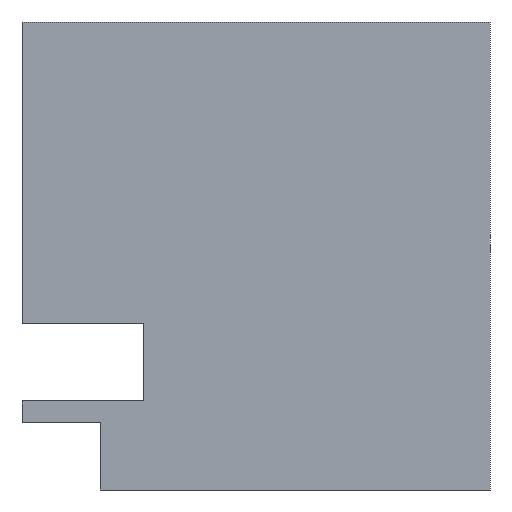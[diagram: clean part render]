
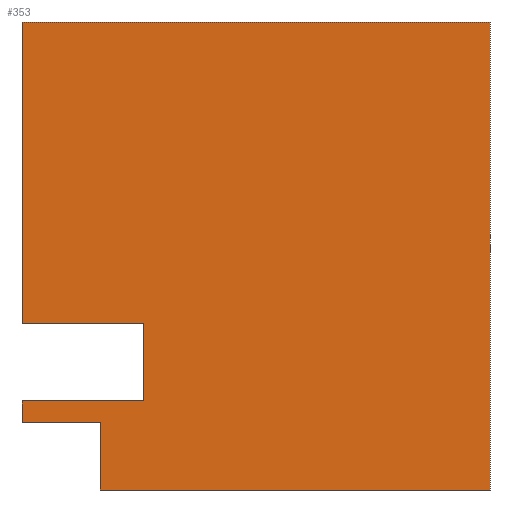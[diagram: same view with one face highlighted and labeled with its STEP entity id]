
A CAD part, front view. The second image highlights one B-rep face of the part: STEP entity #353.
In plain terms, the highlighted planar face has unit normal (0, -1, 0).
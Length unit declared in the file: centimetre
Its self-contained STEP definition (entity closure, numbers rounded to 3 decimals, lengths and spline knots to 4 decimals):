
#1 = CARTESIAN_POINT ( 'NONE',  ( 0., 0., 1000. ) ) ;
#27 = LINE ( 'NONE', #147, #177 ) ;
#34 = CARTESIAN_POINT ( 'NONE',  ( 0., 0., 1000. ) ) ;
#36 = CARTESIAN_POINT ( 'NONE',  ( 0., 0., 356.3353 ) ) ;
#38 = LINE ( 'NONE', #34, #352 ) ;
#46 = PLANE ( 'NONE',  #463 ) ;
#47 = VERTEX_POINT ( 'NONE', #515 ) ;
#55 = DIRECTION ( 'NONE',  ( 1., 0., 0. ) ) ;
#63 = ORIENTED_EDGE ( 'NONE', *, *, #104, .F. ) ;
#70 = EDGE_CURVE ( 'NONE', #47, #554, #331, .T. ) ;
#72 = VECTOR ( 'NONE', #210, 100. ) ;
#97 = CARTESIAN_POINT ( 'NONE',  ( 0., 0., 190.1801 ) ) ;
#104 = EDGE_CURVE ( 'NONE', #674, #160, #38, .T. ) ;
#110 = CARTESIAN_POINT ( 'NONE',  ( 167.4803, 0., 145.2426 ) ) ;
#133 = ORIENTED_EDGE ( 'NONE', *, *, #347, .F. ) ;
#138 = EDGE_CURVE ( 'NONE', #764, #198, #604, .T. ) ;
#147 = CARTESIAN_POINT ( 'NONE',  ( 167.4803, 0., 145.2426 ) ) ;
#155 = VECTOR ( 'NONE', #544, 100. ) ;
#160 = VERTEX_POINT ( 'NONE', #708 ) ;
#177 = VECTOR ( 'NONE', #193, 100. ) ;
#189 = CARTESIAN_POINT ( 'NONE',  ( 167.4803, 0., 145.2426 ) ) ;
#192 = ORIENTED_EDGE ( 'NONE', *, *, #220, .T. ) ;
#193 = DIRECTION ( 'NONE',  ( 0., 0., -1. ) ) ;
#196 = CARTESIAN_POINT ( 'NONE',  ( 0., 0., 356.3353 ) ) ;
#198 = VERTEX_POINT ( 'NONE', #540 ) ;
#203 = EDGE_LOOP ( 'NONE', ( #298, #318, #735, #133, #677, #192, #467, #63, #561, #490 ) ) ;
#210 = DIRECTION ( 'NONE',  ( 0., 0., -1. ) ) ;
#214 = EDGE_CURVE ( 'NONE', #674, #710, #769, .T. ) ;
#220 = EDGE_CURVE ( 'NONE', #529, #236, #301, .T. ) ;
#221 = DIRECTION ( 'NONE',  ( -1., 0., 0. ) ) ;
#236 = VERTEX_POINT ( 'NONE', #243 ) ;
#237 = CARTESIAN_POINT ( 'NONE',  ( 259.8234, 0., 190.1801 ) ) ;
#243 = CARTESIAN_POINT ( 'NONE',  ( 1000., 0., 0. ) ) ;
#268 = LINE ( 'NONE', #196, #655 ) ;
#276 = DIRECTION ( 'NONE',  ( 1., 0., 0. ) ) ;
#283 = CARTESIAN_POINT ( 'NONE',  ( 259.8234, 0., 356.3353 ) ) ;
#298 = ORIENTED_EDGE ( 'NONE', *, *, #138, .T. ) ;
#301 = LINE ( 'NONE', #600, #536 ) ;
#318 = ORIENTED_EDGE ( 'NONE', *, *, #709, .T. ) ;
#320 = CARTESIAN_POINT ( 'NONE',  ( 167.4803, 0., 0. ) ) ;
#331 = LINE ( 'NONE', #457, #72 ) ;
#346 = DIRECTION ( 'NONE',  ( -1., 0., 0. ) ) ;
#347 = EDGE_CURVE ( 'NONE', #387, #554, #756, .T. ) ;
#352 = VECTOR ( 'NONE', #276, 100. ) ;
#353 = ADVANCED_FACE ( 'NONE', ( #591 ), #46, .F. ) ;
#387 = VERTEX_POINT ( 'NONE', #189 ) ;
#388 = DIRECTION ( 'NONE',  ( 0., 0., -1. ) ) ;
#397 = LINE ( 'NONE', #607, #687 ) ;
#402 = LINE ( 'NONE', #97, #642 ) ;
#423 = EDGE_CURVE ( 'NONE', #160, #236, #397, .T. ) ;
#424 = VECTOR ( 'NONE', #346, 100. ) ;
#456 = CARTESIAN_POINT ( 'NONE',  ( 0., 0., 145.2426 ) ) ;
#457 = CARTESIAN_POINT ( 'NONE',  ( 0., 0., 1000. ) ) ;
#463 = AXIS2_PLACEMENT_3D ( 'NONE', #537, #772, #711 ) ;
#466 = CARTESIAN_POINT ( 'NONE',  ( 0., 0., 1000. ) ) ;
#467 = ORIENTED_EDGE ( 'NONE', *, *, #423, .F. ) ;
#490 = ORIENTED_EDGE ( 'NONE', *, *, #597, .T. ) ;
#509 = VECTOR ( 'NONE', #542, 100. ) ;
#515 = CARTESIAN_POINT ( 'NONE',  ( 0., 0., 190.1801 ) ) ;
#529 = VERTEX_POINT ( 'NONE', #320 ) ;
#536 = VECTOR ( 'NONE', #55, 100. ) ;
#537 = CARTESIAN_POINT ( 'NONE',  ( 0., 0., 1000. ) ) ;
#540 = CARTESIAN_POINT ( 'NONE',  ( 259.8234, 0., 190.1801 ) ) ;
#542 = DIRECTION ( 'NONE',  ( 0., 0., -1. ) ) ;
#544 = DIRECTION ( 'NONE',  ( 0., 0., -1. ) ) ;
#546 = EDGE_CURVE ( 'NONE', #387, #529, #27, .T. ) ;
#554 = VERTEX_POINT ( 'NONE', #456 ) ;
#561 = ORIENTED_EDGE ( 'NONE', *, *, #214, .T. ) ;
#591 = FACE_OUTER_BOUND ( 'NONE', #203, .T. ) ;
#597 = EDGE_CURVE ( 'NONE', #710, #764, #268, .T. ) ;
#600 = CARTESIAN_POINT ( 'NONE',  ( 0., 0., 0. ) ) ;
#604 = LINE ( 'NONE', #237, #509 ) ;
#607 = CARTESIAN_POINT ( 'NONE',  ( 1000., 0., 1000. ) ) ;
#642 = VECTOR ( 'NONE', #221, 100. ) ;
#655 = VECTOR ( 'NONE', #676, 100. ) ;
#674 = VERTEX_POINT ( 'NONE', #466 ) ;
#676 = DIRECTION ( 'NONE',  ( 1., 0., 0. ) ) ;
#677 = ORIENTED_EDGE ( 'NONE', *, *, #546, .T. ) ;
#687 = VECTOR ( 'NONE', #388, 100. ) ;
#708 = CARTESIAN_POINT ( 'NONE',  ( 1000., 0., 1000. ) ) ;
#709 = EDGE_CURVE ( 'NONE', #198, #47, #402, .T. ) ;
#710 = VERTEX_POINT ( 'NONE', #36 ) ;
#711 = DIRECTION ( 'NONE',  ( 0., 0., 1. ) ) ;
#735 = ORIENTED_EDGE ( 'NONE', *, *, #70, .T. ) ;
#756 = LINE ( 'NONE', #110, #424 ) ;
#764 = VERTEX_POINT ( 'NONE', #283 ) ;
#769 = LINE ( 'NONE', #1, #155 ) ;
#772 = DIRECTION ( 'NONE',  ( 0., 1., 0. ) ) ;
